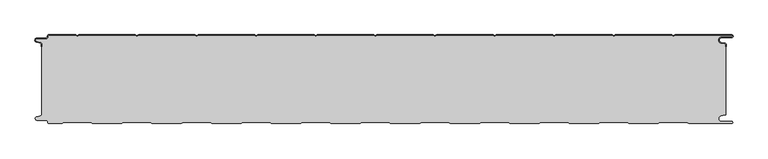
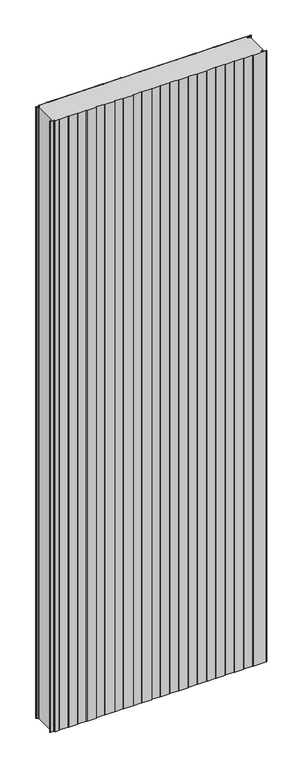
"""IFC4 building model written with IfcOpenShell, lengths in millimetres: plate geometry, PM1_Curtain-Panel_Perfil-Estándar : ACH_PM1_Panel-Acústico-Sectorización_150M."""

from ifc_helpers import new_model, si_unit, point, frame, frame_2d, origin, origin_with_axes, place, context, project, spatial, polyline, circle_curve, trimmed, segment, composite_curve, outline, extrude, source, transform, mapped, element, save
from ifc_brep_helpers import plane_surface, cylinder_surface, revolved_surface, advanced_brep


def plate_a53d14e9(model_context):
    return source(origin(), model_context, "Body", "SolidModel", [
        advanced_brep(
        [(-575.0, -15.878557, 3500.0), (-575.0, -20.0, 3500.0), (-574.2, -20.0, 3500.0), (-574.2, -15.878557, 3500.0), (-576.370137, -13.1503208, 3500.0), (-582.529863, -11.728236, 3500.0), (-581.9, -6.2, 3500.0), (-566.4, -6.2, 3500.0), (-563.6, -3.4, 3500.0), (-563.6, -2.0, 3500.0), (-562.4, -0.8, 3500.0), (-517.3143588, -0.8, 3500.0), (-514.4, -2.482606, 3500.0), (-511.4856412, -0.8, 3500.0), (-417.3143588, -0.8, 3500.0), (-414.4, -2.482606, 3500.0), (-411.4856412, -0.8, 3500.0), (-317.3143588, -0.8, 3500.0), (-314.4, -2.482606, 3500.0), (-311.4856412, -0.8, 3500.0), (-217.3143588, -0.8, 3500.0), (-214.4, -2.482606, 3500.0), (-211.4856412, -0.8, 3500.0), (-117.3143588, -0.8, 3500.0), (-114.4, -2.482606, 3500.0), (-111.4856412, -0.8, 3500.0), (-17.3143588, -0.8, 3500.0), (-14.4, -2.482606, 3500.0), (-11.4856412, -0.8, 3500.0), (82.6856412, -0.8, 3500.0), (85.6, -2.482606, 3500.0), (88.5143588, -0.8, 3500.0), (182.6856412, -0.8, 3500.0), (185.6, -2.482606, 3500.0), (188.5143588, -0.8, 3500.0), (282.6856412, -0.8, 3500.0), (285.6, -2.482606, 3500.0), (288.5143588, -0.8, 3500.0), (382.6856412, -0.8, 3500.0), (385.6, -2.482606, 3500.0), (388.5143588, -0.8, 3500.0), (482.6856412, -0.8, 3500.0), (485.6, -2.482606, 3500.0), (488.5143588, -0.8, 3500.0), (583.1, -0.8, 3500.0), (583.1, -4.2, 3500.0), (566.1, -4.2, 3500.0), (565.2664884, -13.7270771, 3500.0), (571.7125669, -14.8636953, 3500.0), (573.2, -16.6363492, 3500.0), (573.2, -20.0, 3500.0), (574.0, -20.0, 3500.0), (574.0, -16.6363492, 3500.0), (571.8514855, -14.0758491, 3500.0), (565.405407, -12.939231, 3500.0), (566.1, -5.0, 3500.0), (583.1, -5.0, 3500.0), (585.6, -2.5, 3500.0), (583.1, 0.0, 3500.0), (488.2999995, 0.0, 3500.0), (485.6, -1.5588455, 3500.0), (482.9000005, 0.0, 3500.0), (388.2999995, 0.0, 3500.0), (385.6, -1.5588455, 3500.0), (382.9000005, 0.0, 3500.0), (288.2999995, 0.0, 3500.0), (285.6, -1.5588455, 3500.0), (282.9000005, 0.0, 3500.0), (188.2999995, 0.0, 3500.0), (185.6, -1.5588455, 3500.0), (182.9000005, 0.0, 3500.0), (88.2999995, 0.0, 3500.0), (85.6, -1.5588455, 3500.0), (82.9000005, 0.0, 3500.0), (-11.7000005, 0.0, 3500.0), (-14.4, -1.5588455, 3500.0), (-17.0999995, 0.0, 3500.0), (-111.7000005, 0.0, 3500.0), (-114.4, -1.5588455, 3500.0), (-117.0999995, 0.0, 3500.0), (-211.7000005, 0.0, 3500.0), (-214.4, -1.5588455, 3500.0), (-217.0999995, 0.0, 3500.0), (-311.7000005, 0.0, 3500.0), (-314.4, -1.5588455, 3500.0), (-317.0999995, 0.0, 3500.0), (-411.7000005, 0.0, 3500.0), (-414.4, -1.5588455, 3500.0), (-417.0999995, 0.0, 3500.0), (-511.7000005, 0.0, 3500.0), (-514.4, -1.5588455, 3500.0), (-517.0999995, 0.0, 3500.0), (-562.4, 0.0, 3500.0), (-564.4, -2.0, 3500.0), (-564.4, -3.4, 3500.0), (-566.4, -5.4, 3500.0), (-581.9, -5.4, 3500.0), (-582.7098239, -12.5077322, 3500.0), (-576.5500979, -13.929817, 3500.0), (-575.0, -15.878557, 0.0), (-576.5500978, -13.9298169, 0.0), (-582.7098239, -12.507732, 0.0), (-581.9, -5.4, 0.0), (-566.4, -5.4, 0.0), (-564.4, -3.4, 0.0), (-564.4, -2.0, 0.0), (-562.4, 0.0, 0.0), (-517.0999995, 0.0, 0.0), (-514.4, -1.5588455, 0.0), (-511.7000005, 0.0, 0.0), (-417.0999995, 0.0, 0.0), (-414.4, -1.5588455, 0.0), (-411.7000005, 0.0, 0.0), (-317.0999995, 0.0, 0.0), (-314.4, -1.5588455, 0.0), (-311.7000005, 0.0, 0.0), (-217.0999995, 0.0, 0.0), (-214.4, -1.5588455, 0.0), (-211.7000005, 0.0, 0.0), (-117.0999995, 0.0, 0.0), (-114.4, -1.5588455, 0.0), (-111.7000005, 0.0, 0.0), (-17.0999995, 0.0, 0.0), (-14.4, -1.5588455, 0.0), (-11.7000005, 0.0, 0.0), (82.9000005, 0.0, 0.0), (85.6, -1.5588455, 0.0), (88.2999995, 0.0, 0.0), (182.9000005, 0.0, 0.0), (185.6, -1.5588455, 0.0), (188.2999995, 0.0, 0.0), (282.9000005, 0.0, 0.0), (285.6, -1.5588455, 0.0), (288.2999995, 0.0, 0.0), (382.9000005, 0.0, 0.0), (385.6, -1.5588455, 0.0), (388.2999995, 0.0, 0.0), (482.9000005, 0.0, 0.0), (485.6, -1.5588455, 0.0), (488.2999995, 0.0, 0.0), (583.1, 0.0, 0.0), (585.6, -2.5, 0.0), (583.1, -5.0, 0.0), (566.1, -5.0, 0.0), (565.405407, -12.939231, 0.0), (571.8514855, -14.0758491, 0.0), (574.0, -16.6363492, 0.0), (574.0, -20.0, 0.0), (573.2, -20.0, 0.0), (573.2, -16.6363492, 0.0), (571.7125669, -14.8636953, 0.0), (565.2664884, -13.7270772, 0.0), (566.1, -4.2, 0.0), (583.1, -4.2, 0.0), (583.1, -0.8, 0.0), (488.5143588, -0.8, 0.0), (485.6, -2.482606, 0.0), (482.6856412, -0.8, 0.0), (388.5143588, -0.8, 0.0), (385.6, -2.482606, 0.0), (382.6856412, -0.8, 0.0), (288.5143588, -0.8, 0.0), (285.6, -2.482606, 0.0), (282.6856412, -0.8, 0.0), (188.5143588, -0.8, 0.0), (185.6, -2.482606, 0.0), (182.6856412, -0.8, 0.0), (88.5143588, -0.8, 0.0), (85.6, -2.482606, 0.0), (82.6856412, -0.8, 0.0), (-11.4856412, -0.8, 0.0), (-14.4, -2.482606, 0.0), (-17.3143588, -0.8, 0.0), (-111.4856412, -0.8, 0.0), (-114.4, -2.482606, 0.0), (-117.3143588, -0.8, 0.0), (-211.4856412, -0.8, 0.0), (-214.4, -2.482606, 0.0), (-217.3143588, -0.8, 0.0), (-311.4856412, -0.8, 0.0), (-314.4, -2.482606, 0.0), (-317.3143588, -0.8, 0.0), (-411.4856412, -0.8, 0.0), (-414.4, -2.482606, 0.0), (-417.3143588, -0.8, 0.0), (-511.4856412, -0.8, 0.0), (-514.4, -2.482606, 0.0), (-517.3143588, -0.8, 0.0), (-562.4, -0.8, 0.0), (-563.6, -2.0, 0.0), (-563.6, -3.4, 0.0), (-566.4, -6.2, 0.0), (-581.9, -6.2, 0.0), (-582.529863, -11.7282362, 0.0), (-576.370137, -13.150321, 0.0), (-574.2, -15.878557, 0.0), (-574.2, -20.0, 0.0), (-575.0, -20.0, 0.0)],
        [
            (0, 1),
            (1, 2),
            (2, 3),
            (3, 4, circle_curve(frame((-577.0, -15.878557, 3500.0), z_axis=(0.0, 0.0, 1.0), x_axis=(1.0, 0.0, 0.0)), 2.8)),
            (4, 5),
            (5, 6, circle_curve(frame((-581.9, -9.0, 3500.0), z_axis=(0.0, 0.0, -1.0), x_axis=(1.0, 0.0, 0.0)), 2.8)),
            (6, 7),
            (7, 8, circle_curve(frame((-566.4, -3.4, 3500.0), z_axis=(0.0, 0.0, 1.0), x_axis=(1.0, 0.0, 0.0)), 2.8)),
            (8, 9),
            (9, 10, circle_curve(frame((-562.4, -2.0, 3500.0), z_axis=(0.0, 0.0, -1.0), x_axis=(1.0, 0.0, 0.0)), 1.2)),
            (10, 11),
            (11, 12),
            (12, 13),
            (13, 14),
            (14, 15),
            (15, 16),
            (16, 17),
            (17, 18),
            (18, 19),
            (19, 20),
            (20, 21),
            (21, 22),
            (22, 23),
            (23, 24),
            (24, 25),
            (25, 26),
            (26, 27),
            (27, 28),
            (28, 29),
            (29, 30),
            (30, 31),
            (31, 32),
            (32, 33),
            (33, 34),
            (34, 35),
            (35, 36),
            (36, 37),
            (37, 38),
            (38, 39),
            (39, 40),
            (40, 41),
            (41, 42),
            (42, 43),
            (43, 44),
            (44, 45, circle_curve(frame((583.1, -2.5, 3500.0), z_axis=(0.0, 0.0, -1.0), x_axis=(1.0, 0.0, 0.0)), 1.7)),
            (45, 46),
            (46, 47, circle_curve(frame((566.1, -9.0, 3500.0), z_axis=(0.0, 0.0, 1.0), x_axis=(1.0, 0.0, 0.0)), 4.8)),
            (47, 48),
            (48, 49, circle_curve(frame((571.4, -16.6363492, 3500.0), z_axis=(0.0, 0.0, -1.0), x_axis=(1.0, 0.0, 0.0)), 1.8)),
            (49, 50),
            (50, 51),
            (51, 52),
            (52, 53, circle_curve(frame((571.4, -16.6363492, 3500.0), z_axis=(0.0, 0.0, 1.0), x_axis=(1.0, 0.0, 0.0)), 2.6)),
            (53, 54),
            (54, 55, circle_curve(frame((566.1, -9.0, 3500.0), z_axis=(0.0, 0.0, -1.0), x_axis=(1.0, 0.0, 0.0)), 4.0)),
            (55, 56),
            (56, 57, circle_curve(frame((583.1, -2.5, 3500.0), z_axis=(0.0, 0.0, 1.0), x_axis=(1.0, 0.0, 0.0)), 2.5)),
            (57, 58, circle_curve(frame((583.1, -2.5, 3500.0), z_axis=(0.0, 0.0, 1.0), x_axis=(1.0, 0.0, 0.0)), 2.5)),
            (58, 59),
            (59, 60),
            (60, 61),
            (61, 62),
            (62, 63),
            (63, 64),
            (64, 65),
            (65, 66),
            (66, 67),
            (67, 68),
            (68, 69),
            (69, 70),
            (70, 71),
            (71, 72),
            (72, 73),
            (73, 74),
            (74, 75),
            (75, 76),
            (76, 77),
            (77, 78),
            (78, 79),
            (79, 80),
            (80, 81),
            (81, 82),
            (82, 83),
            (83, 84),
            (84, 85),
            (85, 86),
            (86, 87),
            (87, 88),
            (88, 89),
            (89, 90),
            (90, 91),
            (91, 92),
            (92, 93, circle_curve(frame((-562.4, -2.0, 3500.0), z_axis=(0.0, 0.0, 1.0), x_axis=(1.0, 0.0, 0.0)), 2.0)),
            (93, 94),
            (94, 95, circle_curve(frame((-566.4, -3.4, 3500.0), z_axis=(0.0, 0.0, -1.0), x_axis=(1.0, 0.0, 0.0)), 2.0)),
            (95, 96),
            (96, 97, circle_curve(frame((-581.9, -9.0, 3500.0), z_axis=(0.0, 0.0, 1.0), x_axis=(1.0, 0.0, 0.0)), 3.6)),
            (97, 98),
            (98, 0, circle_curve(frame((-577.0, -15.878557, 3500.0), z_axis=(0.0, 0.0, -1.0), x_axis=(1.0, 0.0, 0.0)), 2.0)),
            (99, 100, circle_curve(frame((-577.0, -15.878557, 0.0), z_axis=(0.0, 0.0, 1.0), x_axis=(1.0, 0.0, 0.0)), 2.0)),
            (100, 101),
            (101, 102, circle_curve(frame((-581.9, -9.0, 0.0), z_axis=(0.0, 0.0, -1.0), x_axis=(1.0, 0.0, 0.0)), 3.6)),
            (102, 103),
            (103, 104, circle_curve(frame((-566.4, -3.4, 0.0), z_axis=(0.0, 0.0, 1.0), x_axis=(1.0, 0.0, 0.0)), 2.0)),
            (104, 105),
            (105, 106, circle_curve(frame((-562.4, -2.0, 0.0), z_axis=(0.0, 0.0, -1.0), x_axis=(1.0, 0.0, 0.0)), 2.0)),
            (106, 107),
            (107, 108),
            (108, 109),
            (109, 110),
            (110, 111),
            (111, 112),
            (112, 113),
            (113, 114),
            (114, 115),
            (115, 116),
            (116, 117),
            (117, 118),
            (118, 119),
            (119, 120),
            (120, 121),
            (121, 122),
            (122, 123),
            (123, 124),
            (124, 125),
            (125, 126),
            (126, 127),
            (127, 128),
            (128, 129),
            (129, 130),
            (130, 131),
            (131, 132),
            (132, 133),
            (133, 134),
            (134, 135),
            (135, 136),
            (136, 137),
            (137, 138),
            (138, 139),
            (139, 140),
            (140, 141, circle_curve(frame((583.1, -2.5, 0.0), z_axis=(0.0, 0.0, -1.0), x_axis=(1.0, 0.0, 0.0)), 2.5)),
            (141, 142, circle_curve(frame((583.1, -2.5, 0.0), z_axis=(0.0, 0.0, -1.0), x_axis=(1.0, 0.0, 0.0)), 2.5)),
            (142, 143),
            (143, 144, circle_curve(frame((566.1, -9.0, 0.0), z_axis=(0.0, 0.0, 1.0), x_axis=(1.0, 0.0, 0.0)), 4.0)),
            (144, 145),
            (145, 146, circle_curve(frame((571.4, -16.6363492, 0.0), z_axis=(0.0, 0.0, -1.0), x_axis=(1.0, 0.0, 0.0)), 2.6)),
            (146, 147),
            (147, 148),
            (148, 149),
            (149, 150, circle_curve(frame((571.4, -16.6363492, 0.0), z_axis=(0.0, 0.0, 1.0), x_axis=(1.0, 0.0, 0.0)), 1.8)),
            (150, 151),
            (151, 152, circle_curve(frame((566.1, -9.0, 0.0), z_axis=(0.0, 0.0, -1.0), x_axis=(1.0, 0.0, 0.0)), 4.8)),
            (152, 153),
            (153, 154, circle_curve(frame((583.1, -2.5, 0.0), z_axis=(0.0, 0.0, 1.0), x_axis=(1.0, 0.0, 0.0)), 1.7)),
            (154, 155),
            (155, 156),
            (156, 157),
            (157, 158),
            (158, 159),
            (159, 160),
            (160, 161),
            (161, 162),
            (162, 163),
            (163, 164),
            (164, 165),
            (165, 166),
            (166, 167),
            (167, 168),
            (168, 169),
            (169, 170),
            (170, 171),
            (171, 172),
            (172, 173),
            (173, 174),
            (174, 175),
            (175, 176),
            (176, 177),
            (177, 178),
            (178, 179),
            (179, 180),
            (180, 181),
            (181, 182),
            (182, 183),
            (183, 184),
            (184, 185),
            (185, 186),
            (186, 187),
            (187, 188),
            (188, 189, circle_curve(frame((-562.4, -2.0, 0.0), z_axis=(0.0, 0.0, 1.0), x_axis=(1.0, 0.0, 0.0)), 1.2)),
            (189, 190),
            (190, 191, circle_curve(frame((-566.4, -3.4, 0.0), z_axis=(0.0, 0.0, -1.0), x_axis=(1.0, 0.0, 0.0)), 2.8)),
            (191, 192),
            (192, 193, circle_curve(frame((-581.9, -9.0, 0.0), z_axis=(0.0, 0.0, 1.0), x_axis=(1.0, 0.0, 0.0)), 2.8)),
            (193, 194),
            (194, 195, circle_curve(frame((-577.0, -15.878557, 0.0), z_axis=(0.0, 0.0, -1.0), x_axis=(1.0, 0.0, 0.0)), 2.8)),
            (195, 196),
            (196, 197),
            (197, 99),
            (0, 99),
            (197, 1),
            (196, 2),
            (195, 3),
            (194, 4),
            (193, 5),
            (192, 6),
            (191, 7),
            (190, 8),
            (189, 9),
            (188, 10),
            (187, 11),
            (186, 12),
            (185, 13),
            (184, 14),
            (183, 15),
            (182, 16),
            (181, 17),
            (180, 18),
            (179, 19),
            (178, 20),
            (177, 21),
            (176, 22),
            (175, 23),
            (174, 24),
            (173, 25),
            (172, 26),
            (171, 27),
            (170, 28),
            (169, 29),
            (168, 30),
            (167, 31),
            (166, 32),
            (165, 33),
            (164, 34),
            (163, 35),
            (162, 36),
            (161, 37),
            (160, 38),
            (159, 39),
            (158, 40),
            (157, 41),
            (156, 42),
            (155, 43),
            (154, 44),
            (153, 45),
            (152, 46),
            (151, 47),
            (150, 48),
            (149, 49),
            (148, 50),
            (147, 51),
            (146, 52),
            (145, 53),
            (144, 54),
            (143, 55),
            (142, 56),
            (140, 58),
            (139, 59),
            (138, 60),
            (137, 61),
            (136, 62),
            (135, 63),
            (134, 64),
            (133, 65),
            (132, 66),
            (131, 67),
            (130, 68),
            (129, 69),
            (128, 70),
            (127, 71),
            (126, 72),
            (125, 73),
            (124, 74),
            (123, 75),
            (122, 76),
            (121, 77),
            (120, 78),
            (119, 79),
            (118, 80),
            (117, 81),
            (116, 82),
            (115, 83),
            (114, 84),
            (113, 85),
            (112, 86),
            (111, 87),
            (110, 88),
            (109, 89),
            (108, 90),
            (107, 91),
            (106, 92),
            (105, 93),
            (104, 94),
            (103, 95),
            (102, 96),
            (101, 97),
            (100, 98),
        ],
        [
            plane_surface(frame((-575.0, 0.0, 3500.0), z_axis=(0.0, 0.0, 1.0), x_axis=(0.0, 1.0, 0.0))),
            plane_surface(frame((-575.0, 0.0, 0.0), z_axis=(0.0, 0.0, -1.0), x_axis=(0.0, 1.0, 0.0))),
            plane_surface(frame((-575.0, -15.878557, 3500.0), z_axis=(-1.0, 0.0, 0.0), x_axis=(0.0, 0.0, -1.0))),
            plane_surface(frame((-575.0, -20.0, 3500.0), z_axis=(0.0, -1.0, 0.0), x_axis=(0.0, 0.0, -1.0))),
            plane_surface(frame((-574.2, -20.0, 3500.0), z_axis=(1.0, 0.0, 0.0), x_axis=(0.0, 0.0, -1.0))),
            cylinder_surface(frame((-577.0, -15.878557, 3500.0), z_axis=(0.0, 0.0, 1.0), x_axis=(1.0, 0.0, 0.0)), 2.8),
            plane_surface(frame((-576.370137, -13.150321, 3500.0), z_axis=(0.22495108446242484, 0.9743700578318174, 0.0), x_axis=(0.0, 0.0, -1.0))),
            revolved_surface(polyline([(-579.1, -9.0, 0.0), (-579.1, -9.0, 3500.0)]), (-581.9, -9.0, 3500.0), (0.0, 0.0, -1.0)),
            plane_surface(frame((-581.9, -6.2, 3500.0), z_axis=(0.0, -1.0, 0.0), x_axis=(0.0, 0.0, -1.0))),
            cylinder_surface(frame((-566.4, -3.4, 3500.0), z_axis=(0.0, 0.0, 1.0), x_axis=(1.0, 0.0, 0.0)), 2.8),
            plane_surface(frame((-563.6, -3.4, 3500.0), z_axis=(1.0, 0.0, 0.0), x_axis=(0.0, 0.0, -1.0))),
            revolved_surface(polyline([(-561.1999999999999, -2.0, 0.0), (-561.1999999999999, -2.0, 3500.0)]), (-562.4, -2.0, 3500.0), (0.0, 0.0, -1.0)),
            plane_surface(frame((-562.4, -0.8, 3500.0), z_axis=(0.0, -1.0, 0.0), x_axis=(0.0, 0.0, -1.0))),
            plane_surface(frame((-517.3143588, -0.8, 3500.0), z_axis=(-0.5000000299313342, -0.8660253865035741, 0.0), x_axis=(0.0, 0.0, -1.0))),
            plane_surface(frame((-514.4, -2.482606, 3500.0), z_axis=(0.5000000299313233, -0.8660253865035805, 0.0), x_axis=(0.0, 0.0, -1.0))),
            plane_surface(frame((-511.4856412, -0.8, 3500.0), z_axis=(0.0, -1.0, 0.0), x_axis=(0.0, 0.0, -1.0))),
            plane_surface(frame((-417.3143588, -0.8, 3500.0), z_axis=(-0.5000000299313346, -0.8660253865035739, 0.0), x_axis=(0.0, 0.0, -1.0))),
            plane_surface(frame((-414.4, -2.482606, 3500.0), z_axis=(0.5000000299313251, -0.8660253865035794, 0.0), x_axis=(0.0, 0.0, -1.0))),
            plane_surface(frame((-411.4856412, -0.8, 3500.0), z_axis=(0.0, -1.0, 0.0), x_axis=(0.0, 0.0, -1.0))),
            plane_surface(frame((-317.3143588, -0.8, 3500.0), z_axis=(-0.5000000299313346, -0.866025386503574, 0.0), x_axis=(0.0, 0.0, -1.0))),
            plane_surface(frame((-314.4, -2.482606, 3500.0), z_axis=(0.5000000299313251, -0.8660253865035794, 0.0), x_axis=(0.0, 0.0, -1.0))),
            plane_surface(frame((-311.4856412, -0.8, 3500.0), z_axis=(0.0, -1.0, 0.0), x_axis=(0.0, 0.0, -1.0))),
            plane_surface(frame((-217.3143588, -0.8, 3500.0), z_axis=(-0.5000000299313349, -0.8660253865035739, 0.0), x_axis=(0.0, 0.0, -1.0))),
            plane_surface(frame((-214.4, -2.482606, 3500.0), z_axis=(0.5000000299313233, -0.8660253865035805, 0.0), x_axis=(0.0, 0.0, -1.0))),
            plane_surface(frame((-211.4856412, -0.8, 3500.0), z_axis=(0.0, -1.0, 0.0), x_axis=(0.0, 0.0, -1.0))),
            plane_surface(frame((-117.3143588, -0.8, 3500.0), z_axis=(-0.5000000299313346, -0.866025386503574, 0.0), x_axis=(0.0, 0.0, -1.0))),
            plane_surface(frame((-114.4, -2.482606, 3500.0), z_axis=(0.5000000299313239, -0.8660253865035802, 0.0), x_axis=(0.0, 0.0, -1.0))),
            plane_surface(frame((-111.4856412, -0.8, 3500.0), z_axis=(0.0, -1.0, 0.0), x_axis=(0.0, 0.0, -1.0))),
            plane_surface(frame((-17.3143588, -0.8, 3500.0), z_axis=(-0.5000000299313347, -0.8660253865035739, 0.0), x_axis=(0.0, 0.0, -1.0))),
            plane_surface(frame((-14.4, -2.482606, 3500.0), z_axis=(0.5000000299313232, -0.8660253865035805, 0.0), x_axis=(0.0, 0.0, -1.0))),
            plane_surface(frame((-11.4856412, -0.8, 3500.0), z_axis=(0.0, -1.0, 0.0), x_axis=(0.0, 0.0, -1.0))),
            plane_surface(frame((82.6856412, -0.8, 3500.0), z_axis=(-0.5000000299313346, -0.866025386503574, 0.0), x_axis=(0.0, 0.0, -1.0))),
            plane_surface(frame((85.6, -2.482606, 3500.0), z_axis=(0.5000000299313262, -0.8660253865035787, 0.0), x_axis=(0.0, 0.0, -1.0))),
            plane_surface(frame((88.5143588, -0.8, 3500.0), z_axis=(0.0, -1.0, 0.0), x_axis=(0.0, 0.0, -1.0))),
            plane_surface(frame((182.6856412, -0.8, 3500.0), z_axis=(-0.5000000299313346, -0.8660253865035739, 0.0), x_axis=(0.0, 0.0, -1.0))),
            plane_surface(frame((185.6, -2.482606, 3500.0), z_axis=(0.5000000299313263, -0.8660253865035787, 0.0), x_axis=(0.0, 0.0, -1.0))),
            plane_surface(frame((188.5143588, -0.8, 3500.0), z_axis=(0.0, -1.0, 0.0), x_axis=(0.0, 0.0, -1.0))),
            plane_surface(frame((282.6856412, -0.8, 3500.0), z_axis=(-0.5000000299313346, -0.8660253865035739, 0.0), x_axis=(0.0, 0.0, -1.0))),
            plane_surface(frame((285.6, -2.482606, 3500.0), z_axis=(0.5000000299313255, -0.8660253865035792, 0.0), x_axis=(0.0, 0.0, -1.0))),
            plane_surface(frame((288.5143588, -0.8, 3500.0), z_axis=(0.0, -1.0, 0.0), x_axis=(0.0, 0.0, -1.0))),
            plane_surface(frame((382.6856412, -0.8, 3500.0), z_axis=(-0.5000000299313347, -0.8660253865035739, 0.0), x_axis=(0.0, 0.0, -1.0))),
            plane_surface(frame((385.6, -2.482606, 3500.0), z_axis=(0.5000000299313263, -0.8660253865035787, 0.0), x_axis=(0.0, 0.0, -1.0))),
            plane_surface(frame((388.5143588, -0.8, 3500.0), z_axis=(0.0, -1.0, 0.0), x_axis=(0.0, 0.0, -1.0))),
            plane_surface(frame((482.6856412, -0.8, 3500.0), z_axis=(-0.5000000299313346, -0.866025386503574, 0.0), x_axis=(0.0, 0.0, -1.0))),
            plane_surface(frame((485.6, -2.482606, 3500.0), z_axis=(0.5000000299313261, -0.8660253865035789, 0.0), x_axis=(0.0, 0.0, -1.0))),
            plane_surface(frame((535.6, -0.8, 3500.0), z_axis=(0.0, -1.0, 0.0), x_axis=(0.0, 0.0, -1.0))),
            revolved_surface(polyline([(584.8000000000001, -2.5, 0.0), (584.8000000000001, -2.5, 3500.0)]), (583.1, -2.5, 3500.0), (0.0, 0.0, -1.0)),
            plane_surface(frame((583.1, -4.2, 3500.0), z_axis=(0.0, 1.0, 0.0), x_axis=(0.0, 0.0, -1.0))),
            cylinder_surface(frame((566.1, -9.0, 3500.0), z_axis=(0.0, 0.0, 1.0), x_axis=(1.0, 0.0, 0.0)), 4.8),
            plane_surface(frame((565.2664884, -13.7270772, 3500.0), z_axis=(-0.17364825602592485, -0.9848077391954, 0.0), x_axis=(0.0, 0.0, -1.0))),
            revolved_surface(polyline([(573.1999999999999, -16.6363492, 0.0), (573.1999999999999, -16.6363492, 3500.0)]), (571.4, -16.6363492, 3500.0), (0.0, 0.0, -1.0)),
            plane_surface(frame((573.2, -16.6363492, 3500.0), z_axis=(-1.0, 0.0, 0.0), x_axis=(0.0, 0.0, -1.0))),
            plane_surface(frame((573.2, -20.0, 3500.0), z_axis=(0.0, -1.0, 0.0), x_axis=(0.0, 0.0, -1.0))),
            plane_surface(frame((574.0, -20.0, 3500.0), z_axis=(1.0, 0.0, 0.0), x_axis=(0.0, 0.0, -1.0))),
            cylinder_surface(frame((571.4, -16.6363492, 3500.0), z_axis=(0.0, 0.0, 1.0), x_axis=(1.0, 0.0, 0.0)), 2.6),
            plane_surface(frame((571.8514855, -14.0758491, 3500.0), z_axis=(0.1736482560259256, 0.9848077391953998, 0.0), x_axis=(0.0, 0.0, -1.0))),
            revolved_surface(polyline([(570.1, -9.0, 0.0), (570.1, -9.0, 3500.0)]), (566.1, -9.0, 3500.0), (0.0, 0.0, -1.0)),
            plane_surface(frame((566.1, -5.0, 3500.0), z_axis=(0.0, -1.0, 0.0), x_axis=(0.0, 0.0, -1.0))),
            cylinder_surface(frame((583.1, -2.5, 3500.0), z_axis=(0.0, 0.0, 1.0), x_axis=(1.0, 0.0, 0.0)), 2.5),
            plane_surface(frame((535.6, 0.0, 3500.0), z_axis=(0.0, 1.0, 0.0), x_axis=(0.0, 0.0, -1.0))),
            plane_surface(frame((488.2999995, 0.0, 3500.0), z_axis=(-0.5000000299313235, 0.8660253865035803, 0.0), x_axis=(0.0, 0.0, -1.0))),
            plane_surface(frame((485.6, -1.5588455, 3500.0), z_axis=(0.5000000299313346, 0.8660253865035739, 0.0), x_axis=(0.0, 0.0, -1.0))),
            plane_surface(frame((482.9000005, 0.0, 3500.0), z_axis=(0.0, 1.0, 0.0), x_axis=(0.0, 0.0, -1.0))),
            plane_surface(frame((388.2999995, 0.0, 3500.0), z_axis=(-0.5000000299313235, 0.8660253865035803, 0.0), x_axis=(0.0, 0.0, -1.0))),
            plane_surface(frame((385.6, -1.5588455, 3500.0), z_axis=(0.5000000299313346, 0.8660253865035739, 0.0), x_axis=(0.0, 0.0, -1.0))),
            plane_surface(frame((382.9000005, 0.0, 3500.0), z_axis=(0.0, 1.0, 0.0), x_axis=(0.0, 0.0, -1.0))),
            plane_surface(frame((288.2999995, 0.0, 3500.0), z_axis=(-0.5000000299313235, 0.8660253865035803, 0.0), x_axis=(0.0, 0.0, -1.0))),
            plane_surface(frame((285.6, -1.5588455, 3500.0), z_axis=(0.5000000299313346, 0.8660253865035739, 0.0), x_axis=(0.0, 0.0, -1.0))),
            plane_surface(frame((282.9000005, 0.0, 3500.0), z_axis=(0.0, 1.0, 0.0), x_axis=(0.0, 0.0, -1.0))),
            plane_surface(frame((188.2999995, 0.0, 3500.0), z_axis=(-0.5000000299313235, 0.8660253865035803, 0.0), x_axis=(0.0, 0.0, -1.0))),
            plane_surface(frame((185.6, -1.5588455, 3500.0), z_axis=(0.5000000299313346, 0.8660253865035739, 0.0), x_axis=(0.0, 0.0, -1.0))),
            plane_surface(frame((182.9000005, 0.0, 3500.0), z_axis=(0.0, 1.0, 0.0), x_axis=(0.0, 0.0, -1.0))),
            plane_surface(frame((88.2999995, 0.0, 3500.0), z_axis=(-0.5000000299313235, 0.8660253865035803, 0.0), x_axis=(0.0, 0.0, -1.0))),
            plane_surface(frame((85.6, -1.5588455, 3500.0), z_axis=(0.5000000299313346, 0.8660253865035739, 0.0), x_axis=(0.0, 0.0, -1.0))),
            plane_surface(frame((82.9000005, 0.0, 3500.0), z_axis=(0.0, 1.0, 0.0), x_axis=(0.0, 0.0, -1.0))),
            plane_surface(frame((-11.7000005, 0.0, 3500.0), z_axis=(-0.5000000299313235, 0.8660253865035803, 0.0), x_axis=(0.0, 0.0, -1.0))),
            plane_surface(frame((-14.4, -1.5588455, 3500.0), z_axis=(0.5000000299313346, 0.8660253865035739, 0.0), x_axis=(0.0, 0.0, -1.0))),
            plane_surface(frame((-17.0999995, 0.0, 3500.0), z_axis=(0.0, 1.0, 0.0), x_axis=(0.0, 0.0, -1.0))),
            plane_surface(frame((-111.7000005, 0.0, 3500.0), z_axis=(-0.5000000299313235, 0.8660253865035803, 0.0), x_axis=(0.0, 0.0, -1.0))),
            plane_surface(frame((-114.4, -1.5588455, 3500.0), z_axis=(0.5000000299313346, 0.8660253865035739, 0.0), x_axis=(0.0, 0.0, -1.0))),
            plane_surface(frame((-117.0999995, 0.0, 3500.0), z_axis=(0.0, 1.0, 0.0), x_axis=(0.0, 0.0, -1.0))),
            plane_surface(frame((-211.7000005, 0.0, 3500.0), z_axis=(-0.5000000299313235, 0.8660253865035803, 0.0), x_axis=(0.0, 0.0, -1.0))),
            plane_surface(frame((-214.4, -1.5588455, 3500.0), z_axis=(0.5000000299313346, 0.8660253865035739, 0.0), x_axis=(0.0, 0.0, -1.0))),
            plane_surface(frame((-217.0999995, 0.0, 3500.0), z_axis=(0.0, 1.0, 0.0), x_axis=(0.0, 0.0, -1.0))),
            plane_surface(frame((-311.7000005, 0.0, 3500.0), z_axis=(-0.5000000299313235, 0.8660253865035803, 0.0), x_axis=(0.0, 0.0, -1.0))),
            plane_surface(frame((-314.4, -1.5588455, 3500.0), z_axis=(0.5000000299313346, 0.8660253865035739, 0.0), x_axis=(0.0, 0.0, -1.0))),
            plane_surface(frame((-317.0999995, 0.0, 3500.0), z_axis=(0.0, 1.0, 0.0), x_axis=(0.0, 0.0, -1.0))),
            plane_surface(frame((-411.7000005, 0.0, 3500.0), z_axis=(-0.5000000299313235, 0.8660253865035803, 0.0), x_axis=(0.0, 0.0, -1.0))),
            plane_surface(frame((-414.4, -1.5588455, 3500.0), z_axis=(0.5000000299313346, 0.8660253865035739, 0.0), x_axis=(0.0, 0.0, -1.0))),
            plane_surface(frame((-417.0999995, 0.0, 3500.0), z_axis=(0.0, 1.0, 0.0), x_axis=(0.0, 0.0, -1.0))),
            plane_surface(frame((-511.7000005, 0.0, 3500.0), z_axis=(-0.5000000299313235, 0.8660253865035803, 0.0), x_axis=(0.0, 0.0, -1.0))),
            plane_surface(frame((-514.4, -1.5588455, 3500.0), z_axis=(0.5000000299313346, 0.8660253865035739, 0.0), x_axis=(0.0, 0.0, -1.0))),
            plane_surface(frame((-517.0999995, 0.0, 3500.0), z_axis=(0.0, 1.0, 0.0), x_axis=(0.0, 0.0, -1.0))),
            cylinder_surface(frame((-562.4, -2.0, 3500.0), z_axis=(0.0, 0.0, 1.0), x_axis=(1.0, 0.0, 0.0)), 2.0),
            plane_surface(frame((-564.4, -2.0, 3500.0), z_axis=(-1.0, 0.0, 0.0), x_axis=(0.0, 0.0, -1.0))),
            revolved_surface(polyline([(-564.4, -3.4, 0.0), (-564.4, -3.4, 3500.0)]), (-566.4, -3.4, 3500.0), (0.0, 0.0, -1.0)),
            plane_surface(frame((-566.4, -5.4, 3500.0), z_axis=(0.0, 1.0, 0.0), x_axis=(0.0, 0.0, -1.0))),
            cylinder_surface(frame((-581.9, -9.0, 3500.0), z_axis=(0.0, 0.0, 1.0), x_axis=(1.0, 0.0, 0.0)), 3.6),
            plane_surface(frame((-582.7098239, -12.507732, 3500.0), z_axis=(-0.22495108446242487, -0.9743700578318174, 0.0), x_axis=(0.0, 0.0, -1.0))),
            revolved_surface(polyline([(-575.0, -15.878557, 0.0), (-575.0, -15.878557, 3500.0)]), (-577.0, -15.878557, 3500.0), (0.0, 0.0, -1.0)),
        ],
        [
            (0, [[1, 2, 3, 4, 5, 6, 7, 8, 9, 10, 11, 12, 13, 14, 15, 16, 17, 18, 19, 20, 21, 22, 23, 24, 25, 26, 27, 28, 29, 30, 31, 32, 33, 34, 35, 36, 37, 38, 39, 40, 41, 42, 43, 44, 45, 46, 47, 48, 49, 50, 51, 52, 53, 54, 55, 56, 57, 58, 59, 60, 61, 62, 63, 64, 65, 66, 67, 68, 69, 70, 71, 72, 73, 74, 75, 76, 77, 78, 79, 80, 81, 82, 83, 84, 85, 86, 87, 88, 89, 90, 91, 92, 93, 94, 95, 96, 97, 98, 99]]),
            (1, [[100, 101, 102, 103, 104, 105, 106, 107, 108, 109, 110, 111, 112, 113, 114, 115, 116, 117, 118, 119, 120, 121, 122, 123, 124, 125, 126, 127, 128, 129, 130, 131, 132, 133, 134, 135, 136, 137, 138, 139, 140, 141, 142, 143, 144, 145, 146, 147, 148, 149, 150, 151, 152, 153, 154, 155, 156, 157, 158, 159, 160, 161, 162, 163, 164, 165, 166, 167, 168, 169, 170, 171, 172, 173, 174, 175, 176, 177, 178, 179, 180, 181, 182, 183, 184, 185, 186, 187, 188, 189, 190, 191, 192, 193, 194, 195, 196, 197, 198]]),
            (2, [[-1, 199, -198, 200]]),
            (3, [[-2, -200, -197, 201]]),
            (4, [[-3, -201, -196, 202]]),
            (5, [[-4, -202, -195, 203]]),
            (6, [[-5, -203, -194, 204]]),
            (7, [[-6, -204, -193, 205]]),
            (8, [[-7, -205, -192, 206]]),
            (9, [[-8, -206, -191, 207]]),
            (10, [[-9, -207, -190, 208]]),
            (11, [[-10, -208, -189, 209]]),
            (12, [[-11, -209, -188, 210]]),
            (13, [[-12, -210, -187, 211]]),
            (14, [[-13, -211, -186, 212]]),
            (15, [[-14, -212, -185, 213]]),
            (16, [[-15, -213, -184, 214]]),
            (17, [[-16, -214, -183, 215]]),
            (18, [[-17, -215, -182, 216]]),
            (19, [[-18, -216, -181, 217]]),
            (20, [[-19, -217, -180, 218]]),
            (21, [[-20, -218, -179, 219]]),
            (22, [[-21, -219, -178, 220]]),
            (23, [[-22, -220, -177, 221]]),
            (24, [[-23, -221, -176, 222]]),
            (25, [[-24, -222, -175, 223]]),
            (26, [[-25, -223, -174, 224]]),
            (27, [[-26, -224, -173, 225]]),
            (28, [[-27, -225, -172, 226]]),
            (29, [[-28, -226, -171, 227]]),
            (30, [[-29, -227, -170, 228]]),
            (31, [[-30, -228, -169, 229]]),
            (32, [[-31, -229, -168, 230]]),
            (33, [[-32, -230, -167, 231]]),
            (34, [[-33, -231, -166, 232]]),
            (35, [[-34, -232, -165, 233]]),
            (36, [[-35, -233, -164, 234]]),
            (37, [[-36, -234, -163, 235]]),
            (38, [[-37, -235, -162, 236]]),
            (39, [[-38, -236, -161, 237]]),
            (40, [[-39, -237, -160, 238]]),
            (41, [[-40, -238, -159, 239]]),
            (42, [[-41, -239, -158, 240]]),
            (43, [[-42, -240, -157, 241]]),
            (44, [[-43, -241, -156, 242]]),
            (45, [[-44, -242, -155, 243]]),
            (46, [[-45, -243, -154, 244]]),
            (47, [[-46, -244, -153, 245]]),
            (48, [[-47, -245, -152, 246]]),
            (49, [[-48, -246, -151, 247]]),
            (50, [[-49, -247, -150, 248]]),
            (51, [[-50, -248, -149, 249]]),
            (52, [[-51, -249, -148, 250]]),
            (53, [[-52, -250, -147, 251]]),
            (54, [[-53, -251, -146, 252]]),
            (55, [[-54, -252, -145, 253]]),
            (56, [[-55, -253, -144, 254]]),
            (57, [[-56, -254, -143, 255]]),
            (58, [[-255, -142, -141, 256, -58, -57]]),
            (59, [[-59, -256, -140, 257]]),
            (60, [[-60, -257, -139, 258]]),
            (61, [[-61, -258, -138, 259]]),
            (62, [[-62, -259, -137, 260]]),
            (63, [[-63, -260, -136, 261]]),
            (64, [[-64, -261, -135, 262]]),
            (65, [[-65, -262, -134, 263]]),
            (66, [[-66, -263, -133, 264]]),
            (67, [[-67, -264, -132, 265]]),
            (68, [[-68, -265, -131, 266]]),
            (69, [[-69, -266, -130, 267]]),
            (70, [[-70, -267, -129, 268]]),
            (71, [[-71, -268, -128, 269]]),
            (72, [[-72, -269, -127, 270]]),
            (73, [[-73, -270, -126, 271]]),
            (74, [[-74, -271, -125, 272]]),
            (75, [[-75, -272, -124, 273]]),
            (76, [[-76, -273, -123, 274]]),
            (77, [[-77, -274, -122, 275]]),
            (78, [[-78, -275, -121, 276]]),
            (79, [[-79, -276, -120, 277]]),
            (80, [[-80, -277, -119, 278]]),
            (81, [[-81, -278, -118, 279]]),
            (82, [[-82, -279, -117, 280]]),
            (83, [[-83, -280, -116, 281]]),
            (84, [[-84, -281, -115, 282]]),
            (85, [[-85, -282, -114, 283]]),
            (86, [[-86, -283, -113, 284]]),
            (87, [[-87, -284, -112, 285]]),
            (88, [[-88, -285, -111, 286]]),
            (89, [[-89, -286, -110, 287]]),
            (90, [[-90, -287, -109, 288]]),
            (91, [[-91, -288, -108, 289]]),
            (92, [[-92, -289, -107, 290]]),
            (93, [[-93, -290, -106, 291]]),
            (94, [[-94, -291, -105, 292]]),
            (95, [[-95, -292, -104, 293]]),
            (96, [[-96, -293, -103, 294]]),
            (97, [[-97, -294, -102, 295]]),
            (98, [[-98, -295, -101, 296]]),
            (99, [[-99, -296, -100, -199]]),
        ],
    ),
        extrude(outline(composite_curve([segment(polyline([(-574.2, -134.121443), (-574.2, -15.8785573)]), True, "CONTINUOUS"), segment(trimmed(circle_curve(frame_2d((-577.0, -15.8785573)), 2.8), [point((-574.2, -15.8785573))], [point((-576.370137, -13.1503212))], True, "CARTESIAN"), True, "CONTINUOUS"), segment(polyline([(-576.370137, -13.1503212), (-582.5298631, -11.7282362)]), True, "CONTINUOUS"), segment(trimmed(circle_curve(frame_2d((-581.9, -9.0)), 2.8), [point((-582.5298631, -11.7282362))], [point((-581.9, -6.2))], False, "CARTESIAN"), True, "CONTINUOUS"), segment(polyline([(-581.9, -6.2), (-566.4000001, -6.2)]), True, "CONTINUOUS"), segment(trimmed(circle_curve(frame_2d((-566.4000001, -3.4)), 2.8), [point((-566.4000001, -6.2))], [point((-563.6000001, -3.4))], True, "CARTESIAN"), True, "CONTINUOUS"), segment(polyline([(-563.6000001, -3.4), (-563.6000001, -2.0)]), True, "CONTINUOUS"), segment(trimmed(circle_curve(frame_2d((-562.4000001, -2.0)), 1.2), [point((-563.6000001, -2.0))], [point((-562.4000001, -0.8))], False, "CARTESIAN"), True, "CONTINUOUS"), segment(polyline([(-562.4000001, -0.8), (-517.3143589, -0.8), (-514.4000001, -2.482606), (-511.4856412, -0.8), (-417.3143589, -0.8), (-414.4000001, -2.482606), (-411.4856412, -0.8), (-317.3143589, -0.8), (-314.4000001, -2.482606), (-311.4856412, -0.8), (-217.3143589, -0.8), (-214.4000001, -2.482606), (-211.4856412, -0.8), (-117.3143589, -0.8), (-114.4000001, -2.482606), (-111.4856412, -0.8), (-17.3143589, -0.8), (-14.4000001, -2.482606), (-11.4856412, -0.8), (82.6856411, -0.8), (85.5999999, -2.482606), (88.5143588, -0.8), (182.6856411, -0.8), (185.5999999, -2.482606), (188.5143588, -0.8), (282.6856411, -0.8), (285.5999999, -2.482606), (288.5143588, -0.8), (382.6856411, -0.8), (385.5999999, -2.482606), (388.5143588, -0.8), (482.6856411, -0.8), (485.6, -2.482606), (488.5143588, -0.8), (583.1, -0.8)]), True, "CONTINUOUS"), segment(trimmed(circle_curve(frame_2d((583.1, -2.5)), 1.7), [point((583.1, -0.8))], [point((583.1, -4.2))], False, "CARTESIAN"), True, "CONTINUOUS"), segment(polyline([(583.1, -4.2), (566.1, -4.2)]), True, "CONTINUOUS"), segment(trimmed(circle_curve(frame_2d((566.1, -9.0)), 4.8), [point((566.1, -4.2))], [point((565.2664883, -13.7270771))], True, "CARTESIAN"), True, "CONTINUOUS"), segment(polyline([(565.2664883, -13.7270771), (571.7125668, -14.8636953)]), True, "CONTINUOUS"), segment(trimmed(circle_curve(frame_2d((571.4, -16.6363492)), 1.8), [point((571.7125668, -14.8636953))], [point((573.2, -16.6363492))], False, "CARTESIAN"), True, "CONTINUOUS"), segment(polyline([(573.2, -16.6363492), (573.2, -133.363652)]), True, "CONTINUOUS"), segment(trimmed(circle_curve(frame_2d((571.4, -133.363652)), 1.8), [point((573.2, -133.363652))], [point((571.7125666, -135.1363059))], False, "CARTESIAN"), True, "CONTINUOUS"), segment(polyline([(571.7125666, -135.1363059), (565.266489, -136.272923)]), True, "CONTINUOUS"), segment(trimmed(circle_curve(frame_2d((566.1, -141.0000002)), 4.7999999), [point((565.266489, -136.272923))], [point((566.1, -145.8000001))], True, "CARTESIAN"), True, "CONTINUOUS"), segment(polyline([(566.1, -145.8000001), (583.1, -145.8000001)]), True, "CONTINUOUS"), segment(trimmed(circle_curve(frame_2d((583.1, -147.5)), 1.7), [point((583.1, -145.8000001))], [point((583.1, -149.2))], False, "CARTESIAN"), True, "CONTINUOUS"), segment(polyline([(583.1, -149.2), (510.8105122, -149.2), (508.2124346, -147.7), (462.9837184, -147.7), (460.3856408, -149.2), (410.8105122, -149.2), (408.2124346, -147.7), (362.9837184, -147.7), (360.3856408, -149.2), (310.8105122, -149.2), (308.2124346, -147.7), (262.9837184, -147.7), (260.3856408, -149.2), (210.8105122, -149.2), (208.2124346, -147.7), (162.9837184, -147.7), (160.3856408, -149.2), (110.8105122, -149.2), (108.2124346, -147.7), (62.9837184, -147.7), (60.3856408, -149.2), (10.8105122, -149.2), (8.2124346, -147.7), (-37.0162816, -147.7), (-39.6143592, -149.2), (-89.1894878, -149.2), (-91.7875654, -147.7), (-137.0162816, -147.7), (-139.6143592, -149.2), (-189.1894878, -149.2), (-191.7875654, -147.7), (-237.0162816, -147.7), (-239.6143592, -149.2), (-289.1894878, -149.2), (-291.7875654, -147.7), (-337.0162816, -147.7), (-339.6143592, -149.2), (-389.1894878, -149.2), (-391.7875654, -147.7), (-437.0162816, -147.7), (-439.6143592, -149.2), (-489.1894878, -149.2), (-491.7875654, -147.7), (-537.0162816, -147.7), (-539.6143592, -149.2), (-562.4, -149.2)]), True, "CONTINUOUS"), segment(trimmed(circle_curve(frame_2d((-562.4, -148.0)), 1.2), [point((-562.4, -149.2))], [point((-563.6, -148.0))], False, "CARTESIAN"), True, "CONTINUOUS"), segment(polyline([(-563.6, -148.0), (-563.6, -146.5999998)]), True, "CONTINUOUS"), segment(trimmed(circle_curve(frame_2d((-566.4, -146.5999998)), 2.8), [point((-563.6, -146.5999998))], [point((-566.4, -143.7999998))], True, "CARTESIAN"), True, "CONTINUOUS"), segment(polyline([(-566.4, -143.7999998), (-581.9, -143.7999998)]), True, "CONTINUOUS"), segment(trimmed(circle_curve(frame_2d((-581.9, -141.0)), 2.7999998), [point((-581.9, -143.7999998))], [point((-582.529863, -138.271764))], False, "CARTESIAN"), True, "CONTINUOUS"), segment(polyline([(-582.529863, -138.271764), (-576.370137, -136.8496792)]), True, "CONTINUOUS"), segment(trimmed(circle_curve(frame_2d((-577.0, -134.121443)), 2.8), [point((-576.370137, -136.8496792))], [point((-574.2, -134.121443))], True, "CARTESIAN"), True, "CONTINUOUS")], self_intersect=False)), origin_with_axes(), (0.0, 0.0, 1.0), 3500.0),
    ])


if __name__ == "__main__":
    model = new_model("IFC4")
    model_context = context("Model", 3, world=origin())
    ifc_project = project(units=[si_unit("LENGTHUNIT", "METRE", prefix="MILLI")], contexts=[model_context])
    site = spatial("IfcSite", under=ifc_project)
    building = spatial("IfcBuilding", under=site)
    placement = place(None, origin())
    plate_shape = plate_a53d14e9(model_context)
    element("IfcPlate", 1, ObjectType="PM1_Curtain-Panel_Perfil-Estándar : ACH_PM1_Panel-Acústico-Sectorización_150M", at=placement, inside=building, context=model_context, shape_type="MappedRepresentation", body=[
        mapped(plate_shape, transform((0.0, 0.0, 0.0), x_axis=(1.0, 0.0, 0.0), y_axis=(0.0, 1.0, 0.0), z_axis=(0.0, 0.0, 1.0))),
    ])
    save(model, "model.ifc")
